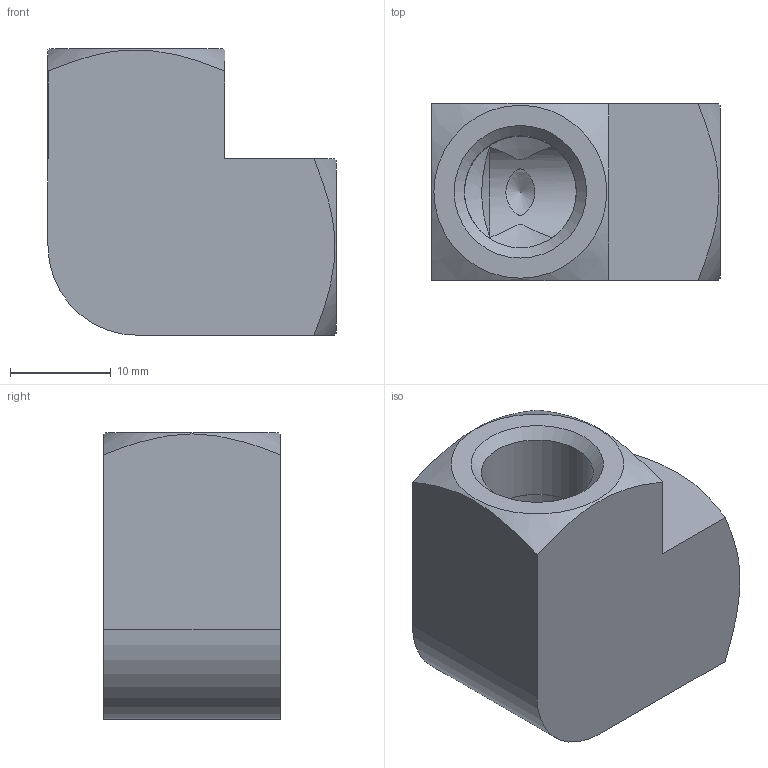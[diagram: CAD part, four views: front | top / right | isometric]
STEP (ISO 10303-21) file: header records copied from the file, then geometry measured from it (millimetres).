
FILE_DESCRIPTION(/* description */ (''),/* implementation_level */ '2;1');
FILE_NAME(/* name */ 'C:/Users/drich/Desktop/EL-14 v1.step',/* time_stamp */ '2020-02-09T11:05:43-06:00',/* author */ (''),/* organization */ (''),/* preprocessor_version */ 'ST-DEVELOPER v18',/* originating_system */ 'Autodesk Translation Framework v8.12.0.6',/* authorisation */ '');
FILE_SCHEMA (('AUTOMOTIVE_DESIGN { 1 0 10303 214 3 1 1 }'));
Length unit declared in the file: inch
Products named in the file (1): EL-14
Bounding box: 28.6 x 17.53 x 28.45 mm (x, y, z)
Volume: 7879 mm3; surface area: 4336.6 mm2
Topology: 1 solids, 1 shells, 33 faces, 91 edges, 61 vertices
Faces by surface type: plane 12, cylinder 11, cone 10
Full cylindrical faces by diameter (mm): 11.1 x2, 11.125 x2
Entity records: 1258 total; most frequent: CARTESIAN_POINT 389, ORIENTED_EDGE 178, DIRECTION 172, EDGE_CURVE 89, AXIS2_PLACEMENT_3D 70, VERTEX_POINT 61, EDGE_LOOP 38, FACE_OUTER_BOUND 33
